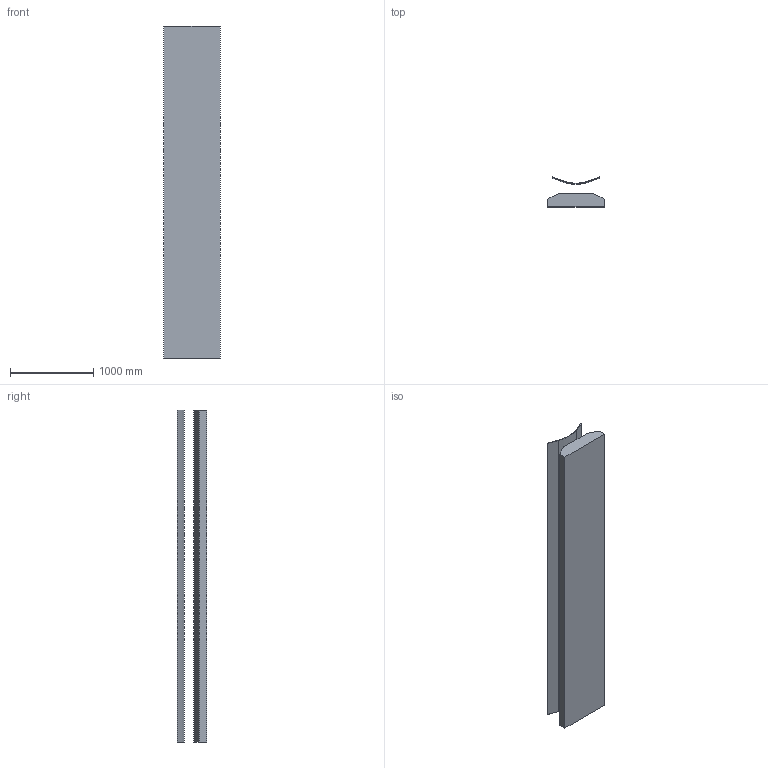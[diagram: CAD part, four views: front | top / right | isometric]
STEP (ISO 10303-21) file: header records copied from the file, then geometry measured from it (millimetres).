
FILE_DESCRIPTION (( 'STEP AP203' ), '1' );
FILE_NAME ('30779.step', '2019-03-14T14:33:15', ( 'PC' ), ( 'Hewlett-Packard Company' ), 'SwSTEP 2.0', 'SolidWorks 2016', '' );
FILE_SCHEMA (( 'CONFIG_CONTROL_DESIGN' ));
Length unit declared in the file: millimetre
Products named in the file (1): 30779
Bounding box: 680 x 356.17 x 4000 mm (x, y, z)
Volume: 415110639.1 mm3; surface area: 11341413.2 mm2
Topology: 2 solids, 2 shells, 18 faces, 42 edges, 28 vertices
Faces by surface type: plane 16, cylinder 2
Entity records: 585 total; most frequent: CARTESIAN_POINT 89, DIRECTION 84, ORIENTED_EDGE 84, EDGE_CURVE 42, VECTOR 38, LINE 38, VERTEX_POINT 28, AXIS2_PLACEMENT_3D 23
